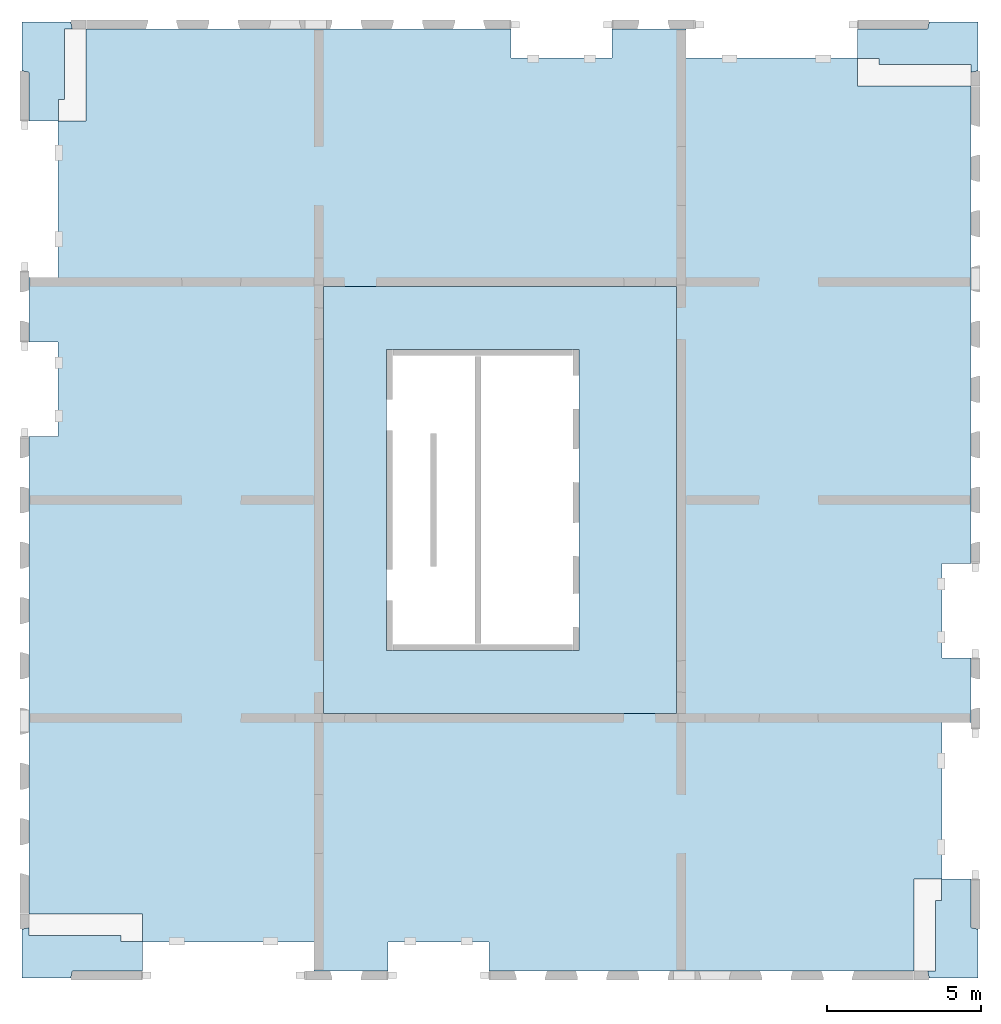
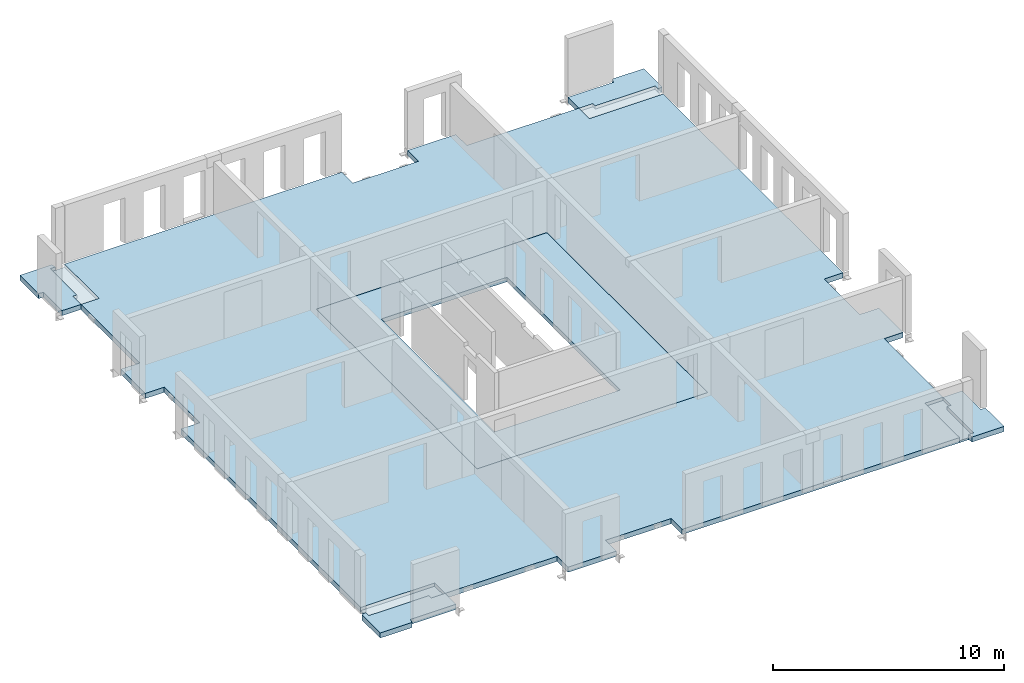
# One storey, part 5 of 5: 6 slabs.
"""IFC2X3 building model written with IfcOpenShell, lengths in millimetres."""

from ifc_helpers import new_model, entity, si_unit, converted_unit, derived_unit, direction, frame, origin, place, context, subcontext, project, spatial, faceted_brep, element, save


model = new_model("IFC2X3")

# Units and contexts
model_context = context("Model", 3, precision=0.01, world=origin(), true_north=direction((6.12303176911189e-17, 1.0)))
body_context = subcontext(model_context, "Body", "Model", "MODEL_VIEW")
ifc_project = project(units=[si_unit("LENGTHUNIT", "METRE", prefix="MILLI"), si_unit("AREAUNIT", "SQUARE_METRE"), si_unit("VOLUMEUNIT", "CUBIC_METRE"), converted_unit("PLANEANGLEUNIT", "DEGREE", entity("IfcRatioMeasure", 0.0174532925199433), si_unit("PLANEANGLEUNIT", "RADIAN"), dimensions=[0, 0, 0, 0, 0, 0, 0]), si_unit("MASSUNIT", "GRAM", prefix="KILO"), derived_unit("MASSDENSITYUNIT", [(si_unit("MASSUNIT", "GRAM", prefix="KILO"), 1), (si_unit("LENGTHUNIT", "METRE"), -3)]), si_unit("TIMEUNIT", "SECOND"), si_unit("FREQUENCYUNIT", "HERTZ"), si_unit("THERMODYNAMICTEMPERATUREUNIT", "DEGREE_CELSIUS"), derived_unit("THERMALTRANSMITTANCEUNIT", [(si_unit("MASSUNIT", "GRAM", prefix="KILO"), 1), (si_unit("THERMODYNAMICTEMPERATUREUNIT", "KELVIN"), -1), (si_unit("TIMEUNIT", "SECOND"), -3)]), derived_unit("VOLUMETRICFLOWRATEUNIT", [(si_unit("LENGTHUNIT", "METRE"), 3), (si_unit("TIMEUNIT", "SECOND"), -1)]), si_unit("ELECTRICCURRENTUNIT", "AMPERE"), si_unit("ELECTRICVOLTAGEUNIT", "VOLT"), si_unit("POWERUNIT", "WATT"), si_unit("FORCEUNIT", "NEWTON", prefix="KILO"), si_unit("ILLUMINANCEUNIT", "LUX"), si_unit("LUMINOUSFLUXUNIT", "LUMEN"), si_unit("LUMINOUSINTENSITYUNIT", "CANDELA"), derived_unit("USERDEFINED", [(si_unit("MASSUNIT", "GRAM", prefix="KILO"), -1), (si_unit("LENGTHUNIT", "METRE"), -2), (si_unit("TIMEUNIT", "SECOND"), 3), (si_unit("LUMINOUSFLUXUNIT", "LUMEN"), 1)]), derived_unit("LINEARVELOCITYUNIT", [(si_unit("LENGTHUNIT", "METRE"), 1), (si_unit("TIMEUNIT", "SECOND"), -1)]), si_unit("PRESSUREUNIT", "PASCAL"), derived_unit("USERDEFINED", [(si_unit("LENGTHUNIT", "METRE"), -2), (si_unit("MASSUNIT", "GRAM", prefix="KILO"), 1), (si_unit("TIMEUNIT", "SECOND"), -2)])], contexts=[model_context])

# Site, building, storey
site_placement = place(None, origin())
site = spatial("IfcSite", under=ifc_project, at=site_placement, Name="Default", CompositionType="ELEMENT")
building_placement = place(site_placement, origin())
building = spatial("IfcBuilding", under=site, at=building_placement, Name="niet gebruiken", CompositionType="ELEMENT")
storey_placement = place(building_placement, frame((0.0, 0.0, 155700.0)))
storey = spatial("IfcBuildingStorey", under=building, at=storey_placement, Name="50 vijftigste verdieping", CompositionType="ELEMENT", Elevation=155700.0)

# Slabs
slab_1_placement = place(storey_placement, origin())
element("IfcSlab", 1, at=slab_1_placement, inside=storey, Name="Floor:NLRS_23.22_FL_beton prefab d=270 3D element_gen", ObjectType="Floor:NLRS_23.22_FL_beton prefab d=270 3D element_gen", PredefinedType="LANDING", context=body_context, shape_type="Brep", body=[
    faceted_brep([(126420.0, 29840.0, -360.0), (126420.0, 31425.3761755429, -360.0), (126187.0, 31472.8526645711, -360.0), (126187.0, 33063.0, -360.0), (127777.147335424, 33063.0, -360.0), (127824.623824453, 32830.0, -360.0), (128270.0, 32830.0, -360.0), (128270.0, 29840.0, -360.0), (126420.0, 31425.3761755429, -90.0), (126420.0, 29840.0, -90.0), (127370.0, 29840.0, -90.0), (127370.0, 30540.0, -90.0), (127570.0, 30540.0, -90.0), (127570.0, 32830.0, -90.0), (127824.623824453, 32830.0, -90.0), (127777.147335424, 33063.0, -90.0), (126187.0, 33063.0, -90.0), (126187.0, 31472.8526645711, -90.0), (127824.623824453, 32830.0, -260.0), (128270.0, 32830.0, -260.0), (128270.0, 29840.0, -260.0), (127370.0, 29840.0, -260.0), (127370.0, 30540.0, -260.0), (127570.0, 32830.0, -260.0), (127570.0, 30540.0, -260.0)], [[[0, 1, 2, 3, 4, 5, 6, 7]], [[8, 9, 10, 11, 12, 13, 14, 15, 16, 17]], [[1, 0, 9, 8]], [[2, 1, 8, 17]], [[3, 2, 17, 16]], [[4, 3, 16, 15]], [[5, 4, 15, 14, 18]], [[6, 5, 18, 19]], [[7, 6, 19, 20]], [[0, 7, 20, 21, 10, 9]], [[22, 21, 20, 19, 18, 23, 24]], [[13, 23, 18, 14]], [[21, 22, 11, 10]], [[22, 24, 12, 11]], [[24, 23, 13, 12]]]),
])
slab_2_placement = place(storey_placement, origin())
element("IfcSlab", 2, at=slab_2_placement, inside=storey, Name="Floor:NLRS_23.22_FL_beton prefab d=270 3D element_gen", ObjectType="Floor:NLRS_23.22_FL_beton prefab d=270 3D element_gen", PredefinedType="LANDING", context=body_context, shape_type="Brep", body=[
    faceted_brep([(157080.0, 5160.0, -360.0), (157080.0, 3574.62382445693, -360.0), (157313.0, 3527.1473354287, -360.0), (157313.0, 1937.0, -360.0), (155722.852664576, 1937.0, -360.0), (155675.376175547, 2170.0, -360.0), (155230.0, 2170.0, -360.0), (155230.0, 5160.0, -360.0), (157080.0, 3574.62382445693, -90.0), (157080.0, 5160.0, -90.0), (156130.0, 5160.0, -90.0), (156130.0, 4460.0, -90.0), (155930.0, 4460.0, -90.0), (155930.0, 2170.0, -90.0), (155675.376175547, 2170.0, -90.0), (155722.852664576, 1937.0, -90.0), (157313.0, 1937.0, -90.0), (157313.0, 3527.1473354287, -90.0), (155675.376175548, 2170.0, -260.0), (155230.0, 2170.0, -260.0), (155230.0, 5160.0, -260.0), (156130.0, 5160.0, -260.0), (156130.0, 4460.0, -260.0), (155930.0, 2170.0, -260.0), (155930.0, 4460.0, -260.0)], [[[0, 1, 2, 3, 4, 5, 6, 7]], [[8, 9, 10, 11, 12, 13, 14, 15, 16, 17]], [[1, 0, 9, 8]], [[2, 1, 8, 17]], [[3, 2, 17, 16]], [[4, 3, 16, 15]], [[5, 4, 15, 14, 18]], [[6, 5, 18, 19]], [[7, 6, 19, 20]], [[0, 7, 20, 21, 10, 9]], [[22, 21, 20, 19, 18, 23, 24]], [[13, 23, 18, 14]], [[21, 22, 11, 10]], [[22, 24, 12, 11]], [[24, 23, 13, 12]]]),
])
slab_3_placement = place(storey_placement, origin())
element("IfcSlab", 3, at=slab_3_placement, inside=storey, Name="Floor:NLRS_23.22_FL_beton prefab d=270 3D element_gen", ObjectType="Floor:NLRS_23.22_FL_beton prefab d=270 3D element_gen", PredefinedType="LANDING", context=body_context, shape_type="Brep", body=[
    faceted_brep([(126420.0, 4020.0, -360.0), (130110.0, 4020.0, -360.0), (130110.0, 2170.0, -360.0), (127824.62382445, 2170.0, -360.0), (127777.147335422, 1937.0, -360.0), (126187.0, 1937.0, -360.0), (126187.0, 3527.14733543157, -360.0), (126420.0, 3574.62382445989, -360.0), (127824.62382445, 2170.0, -90.0), (130110.0, 2170.0, -90.0), (130110.0, 3120.0, -90.0), (129410.0, 3120.0, -90.0), (129410.0, 3320.0, -90.0), (126420.0, 3320.0, -90.0), (126420.0, 3574.62382445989, -90.0), (126187.0, 3527.14733543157, -90.0), (126187.0, 1937.0, -90.0), (127777.147335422, 1937.0, -90.0), (126420.0, 4020.0, -260.0), (130110.0, 4020.0, -260.0), (130110.0, 3120.0, -260.0), (126420.0, 3574.62382446, -260.0), (129410.0, 3120.0, -260.0), (126420.0, 3320.0, -260.0), (129410.0, 3320.0, -260.0)], [[[0, 1, 2, 3, 4, 5, 6, 7]], [[8, 9, 10, 11, 12, 13, 14, 15, 16, 17]], [[1, 0, 18, 19]], [[2, 1, 19, 20, 10, 9]], [[3, 2, 9, 8]], [[4, 3, 8, 17]], [[5, 4, 17, 16]], [[6, 5, 16, 15]], [[7, 6, 15, 14, 21]], [[0, 7, 21, 18]], [[22, 20, 19, 18, 21, 23, 24]], [[20, 22, 11, 10]], [[22, 24, 12, 11]], [[24, 23, 13, 12]], [[13, 23, 21, 14]]]),
])
slab_4_placement = place(storey_placement, origin())
element("IfcSlab", 4, at=slab_4_placement, inside=storey, Name="Floor:NLRS_23.22_FL_beton prefab d=270 3D element_gen", ObjectType="Floor:NLRS_23.22_FL_beton prefab d=270 3D element_gen", PredefinedType="LANDING", context=body_context, shape_type="Brep", body=[
    faceted_brep([(157080.0, 30980.0, -360.0), (153390.0, 30980.0, -360.0), (153390.0, 32830.0, -360.0), (155675.376175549, 32830.0, -360.0), (155722.852664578, 33063.0, -360.0), (157313.0, 33063.0, -360.0), (157313.0, 31472.8526645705, -360.0), (157080.0, 31425.3761755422, -360.0), (155675.376175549, 32830.0, -90.0), (153390.0, 32830.0, -90.0), (153390.0, 31880.0, -90.0), (154090.0, 31880.0, -90.0), (154090.0, 31680.0, -90.0), (157080.0, 31680.0, -90.0), (157080.0, 31425.3761755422, -90.0), (157313.0, 31472.8526645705, -90.0), (157313.0, 33063.0, -90.0), (155722.852664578, 33063.0, -90.0), (157080.0, 30980.0, -260.0), (153390.0, 30980.0, -260.0), (153390.0, 31880.0, -260.0), (157080.0, 31425.3761755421, -260.0), (154090.0, 31880.0, -260.0), (157080.0, 31680.0, -260.0), (154090.0, 31680.0, -260.0)], [[[0, 1, 2, 3, 4, 5, 6, 7]], [[8, 9, 10, 11, 12, 13, 14, 15, 16, 17]], [[1, 0, 18, 19]], [[2, 1, 19, 20, 10, 9]], [[3, 2, 9, 8]], [[4, 3, 8, 17]], [[5, 4, 17, 16]], [[6, 5, 16, 15]], [[7, 6, 15, 14, 21]], [[0, 7, 21, 18]], [[22, 20, 19, 18, 21, 23, 24]], [[20, 22, 11, 10]], [[22, 24, 12, 11]], [[24, 23, 13, 12]], [[13, 23, 21, 14]]]),
])
slab_5_placement = place(storey_placement, origin())
element("IfcSlab", 5, at=slab_5_placement, inside=storey, Name="Floor:NLRS_23.21_FL_vloer=230_gen", ObjectType="Floor:NLRS_23.21_FL_vloer=230_gen", PredefinedType="FLOOR", context=body_context, shape_type="Brep", body=[
    faceted_brep([(144330.0, 22400.0, -320.0), (138050.0, 22400.0, -320.0), (138050.0, 12600.0, -320.0), (144330.0, 12600.0, -320.0), (138040.0, 22410.0, -320.0), (144340.0, 22410.0, -320.0), (144340.0, 12590.0, -320.0), (138040.0, 12590.0, -320.0), (138050.0, 22400.0, -90.0), (144330.0, 22400.0, -90.0), (144330.0, 12600.0, -90.0), (138050.0, 12600.0, -90.0), (147500.0, 10549.7638872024, -90.0), (147500.0, 24450.0, -90.0), (136000.0, 24450.0, -90.0), (136000.0, 10549.7638872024, -90.0), (147500.0, 10549.7638872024, -260.0), (147500.0, 24450.0, -260.0), (136000.0, 10549.7638872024, -260.0), (136000.0, 24450.0, -260.0), (144340.0, 12590.0, -260.0), (144340.0, 22410.0, -260.0), (138040.0, 22410.0, -260.0), (138040.0, 12590.0, -260.0)], [[[0, 1, 2, 3], [4, 5, 6, 7]], [[8, 9, 10, 11], [12, 13, 14, 15]], [[13, 12, 16, 17]], [[12, 15, 18, 16]], [[15, 14, 19, 18]], [[14, 13, 17, 19]], [[1, 0, 9, 8]], [[2, 1, 8, 11]], [[3, 2, 11, 10]], [[0, 3, 10, 9]], [[17, 16, 18, 19], [20, 21, 22, 23]], [[22, 21, 5, 4]], [[23, 22, 4, 7]], [[20, 23, 7, 6]], [[21, 20, 6, 5]]], outer=[[False, True], [False, True], [True], [True], [True], [True], [True], [True], [True], [True], [True, False], [True], [True], [True], [True]]),
])
slab_6_placement = place(storey_placement, origin())
element("IfcSlab", 6, at=slab_6_placement, inside=storey, Name="Floor:NLRS_23.21_FL_vloer d=270_gen", ObjectType="Floor:NLRS_23.21_FL_vloer d=270_gen", PredefinedType="FLOOR", context=body_context, shape_type="Brep", body=[
    faceted_brep([(147500.0, 24450.0, -360.0), (136000.0, 24450.0, -360.0), (136000.0, 10550.0, -360.0), (147500.0, 10550.0, -360.0), (142110.0, 32830.0, -360.0), (142110.0, 31885.0, -360.0), (145390.0, 31885.0, -360.0), (145390.0, 32830.0, -360.0), (147800.0, 32830.0, -360.0), (147800.0, 31885.0, -360.0), (153390.0, 31885.0, -360.0), (153390.0, 30980.0, -360.0), (157080.0, 30980.0, -360.0), (157080.0, 15440.0, -360.0), (156135.0, 15440.0, -360.0), (156135.0, 12360.0, -360.0), (157080.0, 12360.0, -360.0), (157080.0, 10250.0, -360.0), (156135.0, 10250.0, -360.0), (156135.0, 5160.0, -360.0), (155230.0, 5160.0, -360.0), (155230.0, 2170.0, -360.0), (141390.0, 2170.0, -360.0), (141390.0, 3115.0, -360.0), (138110.0, 3115.0, -360.0), (138110.0, 2170.0, -360.0), (135700.0, 2170.0, -360.0), (135700.0, 3115.0, -360.0), (130110.0, 3115.0, -360.0), (130110.0, 4020.0, -360.0), (126420.0, 4020.0, -360.0), (126420.0, 19560.0, -360.0), (127365.0, 19560.0, -360.0), (127365.0, 22640.0, -360.0), (126420.0, 22640.0, -360.0), (126420.0, 24750.0, -360.0), (127365.0, 24750.0, -360.0), (127365.0, 29840.0, -360.0), (128270.0, 29840.0, -360.0), (128270.0, 32830.0, -360.0), (142110.0, 31885.0, -90.0), (142110.0, 32830.0, -90.0), (128270.0, 32830.0, -90.0), (128270.0, 29840.0, -90.0), (127370.0, 29840.0, -90.0), (127365.0, 29840.0, -90.0), (127365.0, 24750.0, -90.0), (126420.0, 24750.0, -90.0), (126420.0, 22640.0, -90.0), (127365.0, 22640.0, -90.0), (127365.0, 19560.0, -90.0), (126420.0, 19560.0, -90.0), (126420.0, 4020.0, -90.0), (130110.0, 4020.0, -90.0), (130110.0, 3120.0, -90.0), (130110.0, 3115.0, -90.0), (135700.0, 3115.0, -90.0), (135700.0, 2170.0, -90.0), (138110.0, 2170.0, -90.0), (138110.0, 3115.0, -90.0), (141390.0, 3115.0, -90.0), (141390.0, 2170.0, -90.0), (155230.0, 2170.0, -90.0), (155230.0, 5160.0, -90.0), (156130.0, 5160.0, -90.0), (156135.0, 5160.0, -90.0), (156135.0, 10250.0, -90.0), (157080.0, 10250.0, -90.0), (157080.0, 12360.0, -90.0), (156135.0, 12360.0, -90.0), (156135.0, 15440.0, -90.0), (157080.0, 15440.0, -90.0), (157080.0, 30980.0, -90.0), (153390.0, 30980.0, -90.0), (153390.0, 31885.0, -90.0), (147800.0, 31885.0, -90.0), (147800.0, 32830.0, -90.0), (145390.0, 32830.0, -90.0), (145390.0, 31885.0, -90.0), (136000.0, 24450.0, -90.0), (147500.0, 24450.0, -90.0), (147500.0, 10549.7638872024, -90.0), (136000.0, 10549.7638872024, -90.0), (147500.0, 24450.0, -320.0), (136000.0, 24450.0, -320.0), (136000.0, 10550.0, -320.0), (147500.0, 10550.0, -320.0), (155230.0, 5160.0, -260.0), (155230.0, 2170.0, -260.0), (130110.0, 4020.0, -260.0), (126420.0, 4020.0, -260.0), (128270.0, 29840.0, -260.0), (128270.0, 32830.0, -260.0), (147510.0, 10540.0, -320.0), (147510.0, 24460.0, -320.0), (135990.0, 24460.0, -320.0), (135990.0, 10540.0, -320.0), (147500.0, 10549.7638872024, -260.0), (136000.0, 10549.7638872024, -260.0), (147500.0, 24450.0, -260.0), (136000.0, 24450.0, -260.0), (135990.0, 24460.0, -260.0), (147510.0, 24460.0, -260.0), (147510.0, 10540.0, -260.0), (135990.0, 10540.0, -260.0)], [[[0, 1, 2, 3], [4, 5, 6, 7, 8, 9, 10, 11, 12, 13, 14, 15, 16, 17, 18, 19, 20, 21, 22, 23, 24, 25, 26, 27, 28, 29, 30, 31, 32, 33, 34, 35, 36, 37, 38, 39]], [[40, 41, 42, 43, 44, 45, 46, 47, 48, 49, 50, 51, 52, 53, 54, 55, 56, 57, 58, 59, 60, 61, 62, 63, 64, 65, 66, 67, 68, 69, 70, 71, 72, 73, 74, 75, 76, 77, 78], [79, 80, 81, 82]], [[1, 0, 83, 84]], [[2, 1, 84, 85]], [[3, 2, 85, 86]], [[0, 3, 86, 83]], [[5, 4, 41, 40]], [[6, 5, 40, 78]], [[7, 6, 78, 77]], [[8, 7, 77, 76]], [[9, 8, 76, 75]], [[10, 9, 75, 74]], [[11, 10, 74, 73]], [[12, 11, 73, 72]], [[13, 12, 72, 71]], [[14, 13, 71, 70]], [[15, 14, 70, 69]], [[16, 15, 69, 68]], [[17, 16, 68, 67]], [[18, 17, 67, 66]], [[19, 18, 66, 65]], [[20, 19, 65, 64, 63, 87]], [[21, 20, 87, 63, 62, 88]], [[22, 21, 88, 62, 61]], [[23, 22, 61, 60]], [[24, 23, 60, 59]], [[25, 24, 59, 58]], [[26, 25, 58, 57]], [[27, 26, 57, 56]], [[28, 27, 56, 55]], [[29, 28, 55, 54, 53, 89]], [[30, 29, 89, 53, 52, 90]], [[31, 30, 90, 52, 51]], [[32, 31, 51, 50]], [[33, 32, 50, 49]], [[34, 33, 49, 48]], [[35, 34, 48, 47]], [[36, 35, 47, 46]], [[37, 36, 46, 45]], [[38, 37, 45, 44, 43, 91]], [[39, 38, 91, 43, 42, 92]], [[4, 39, 92, 42, 41]], [[86, 85, 84, 83], [93, 94, 95, 96]], [[82, 81, 97, 98]], [[99, 100, 98, 97], [101, 102, 103, 104]], [[94, 93, 103, 102]], [[93, 96, 104, 103]], [[96, 95, 101, 104]], [[95, 94, 102, 101]], [[81, 80, 99, 97]], [[79, 82, 98, 100]], [[80, 79, 100, 99]]], outer=[[False, True], [True, False], [True], [True], [True], [True], [True], [True], [True], [True], [True], [True], [True], [True], [True], [True], [True], [True], [True], [True], [True], [True], [True], [True], [True], [True], [True], [True], [True], [True], [True], [True], [True], [True], [True], [True], [True], [True], [True], [True], [True], [True], [False, True], [True], [False, True], [True], [True], [True], [True], [True], [True], [True]]),
])

save(model, "model.ifc")
